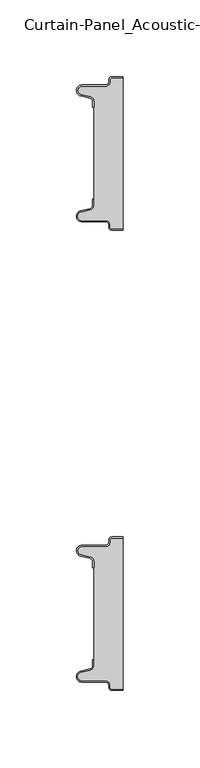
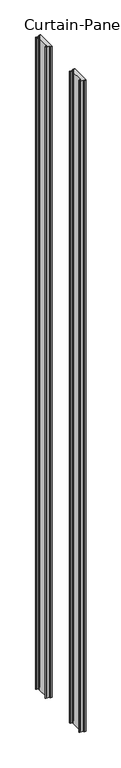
"""IFC4 building model written with IfcOpenShell, lengths in millimetres: plate geometry, Curtain-Panel_Acoustic-Double-Panel_Standard-profile-PMH : ACH_Acoustic-Double-Panel_PMH_100-200-100."""

from ifc_helpers import new_model, si_unit, point, frame_2d, origin, origin_with_axes, place, context, project, spatial, polyline, circle_curve, trimmed, segment, composite_curve, outline, extrude, source, transform, mapped, element, save


def curtain_panel_acoustic_double_panel_standard_profile_pmh_10210fed(model_context):
    return source(origin(), model_context, "Body", "SweptSolid", [
        extrude(outline(composite_curve([segment(trimmed(circle_curve(frame_2d((-12.0, -315.878557)), 2.0), [point((-10.0, -315.878557))], [point((-11.5500978, -313.9298169))], True, "CARTESIAN"), True, "CONTINUOUS"), segment(polyline([(-11.5500978, -313.9298169), (-17.7098239, -312.507732)]), True, "CONTINUOUS"), segment(trimmed(circle_curve(frame_2d((-16.9, -309.0)), 3.6), [point((-17.7098239, -312.507732))], [point((-16.9, -305.4))], False, "CARTESIAN"), True, "CONTINUOUS"), segment(polyline([(-16.9, -305.4), (-1.4, -305.4)]), True, "CONTINUOUS"), segment(trimmed(circle_curve(frame_2d((-1.4, -303.4)), 2.0), [point((-1.4, -305.4))], [point((0.6, -303.4))], True, "CARTESIAN"), True, "CONTINUOUS"), segment(polyline([(0.6, -303.4), (0.6, -302.0)]), True, "CONTINUOUS"), segment(trimmed(circle_curve(frame_2d((2.6, -302.0)), 2.0), [point((0.6, -302.0))], [point((2.6, -300.0))], False, "CARTESIAN"), True, "CONTINUOUS"), segment(polyline([(2.6, -300.0), (10.0, -300.0), (10.0, -300.8), (2.6, -300.8)]), True, "CONTINUOUS"), segment(trimmed(circle_curve(frame_2d((2.6, -302.0)), 1.2), [point((2.6, -300.8))], [point((1.4, -302.0))], True, "CARTESIAN"), True, "CONTINUOUS"), segment(polyline([(1.4, -302.0), (1.4, -303.4)]), True, "CONTINUOUS"), segment(trimmed(circle_curve(frame_2d((-1.4, -303.4)), 2.8), [point((1.4, -303.4))], [point((-1.4, -306.2))], False, "CARTESIAN"), True, "CONTINUOUS"), segment(polyline([(-1.4, -306.2), (-16.9, -306.2)]), True, "CONTINUOUS"), segment(trimmed(circle_curve(frame_2d((-16.9, -309.0)), 2.8), [point((-16.9, -306.2))], [point((-17.529863, -311.7282362))], True, "CARTESIAN"), True, "CONTINUOUS"), segment(polyline([(-17.529863, -311.7282362), (-11.370137, -313.150321)]), True, "CONTINUOUS"), segment(trimmed(circle_curve(frame_2d((-12.0, -315.878557)), 2.8), [point((-11.370137, -313.150321))], [point((-9.2, -315.878557))], False, "CARTESIAN"), True, "CONTINUOUS"), segment(polyline([(-9.2, -315.878557), (-9.2, -320.0), (-10.0, -320.0), (-10.0, -315.878557)]), True, "CONTINUOUS")], self_intersect=False)), origin_with_axes(), (0.0, 0.0, 1.0), 3500.0),
        extrude(outline(composite_curve([segment(polyline([(-9.2, -384.121443), (-9.2, -315.8785573)]), True, "CONTINUOUS"), segment(trimmed(circle_curve(frame_2d((-12.0, -315.8785573)), 2.8), [point((-9.2, -315.8785573))], [point((-11.370137, -313.1503212))], True, "CARTESIAN"), True, "CONTINUOUS"), segment(polyline([(-11.370137, -313.1503212), (-17.5298631, -311.7282362)]), True, "CONTINUOUS"), segment(trimmed(circle_curve(frame_2d((-16.9, -309.0)), 2.8), [point((-17.5298631, -311.7282362))], [point((-16.9, -306.2))], False, "CARTESIAN"), True, "CONTINUOUS"), segment(polyline([(-16.9, -306.2), (-1.4000001, -306.2)]), True, "CONTINUOUS"), segment(trimmed(circle_curve(frame_2d((-1.4000001, -303.4)), 2.8), [point((-1.4000001, -306.2))], [point((1.3999999, -303.4))], True, "CARTESIAN"), True, "CONTINUOUS"), segment(polyline([(1.3999999, -303.4), (1.3999999, -302.0)]), True, "CONTINUOUS"), segment(trimmed(circle_curve(frame_2d((2.5999999, -302.0)), 1.2), [point((1.3999999, -302.0))], [point((2.5999999, -300.8))], False, "CARTESIAN"), True, "CONTINUOUS"), segment(polyline([(2.5999999, -300.8), (10.0, -300.8), (10.0, -399.2), (2.6, -399.2)]), True, "CONTINUOUS"), segment(trimmed(circle_curve(frame_2d((2.6, -398.0)), 1.2), [point((2.6, -399.2))], [point((1.4, -398.0))], False, "CARTESIAN"), True, "CONTINUOUS"), segment(polyline([(1.4, -398.0), (1.4, -396.5999998)]), True, "CONTINUOUS"), segment(trimmed(circle_curve(frame_2d((-1.4, -396.5999998)), 2.8), [point((1.4, -396.5999998))], [point((-1.4, -393.7999998))], True, "CARTESIAN"), True, "CONTINUOUS"), segment(polyline([(-1.4, -393.7999998), (-16.9, -393.7999998)]), True, "CONTINUOUS"), segment(trimmed(circle_curve(frame_2d((-16.9, -391.0)), 2.7999998), [point((-16.9, -393.7999998))], [point((-17.529863, -388.271764))], False, "CARTESIAN"), True, "CONTINUOUS"), segment(polyline([(-17.529863, -388.271764), (-11.370137, -386.8496792)]), True, "CONTINUOUS"), segment(trimmed(circle_curve(frame_2d((-12.0, -384.121443)), 2.8), [point((-11.370137, -386.8496792))], [point((-9.2, -384.121443))], True, "CARTESIAN"), True, "CONTINUOUS")], self_intersect=False)), origin_with_axes(), (0.0, 0.0, 1.0), 3500.0),
        extrude(outline(composite_curve([segment(trimmed(circle_curve(frame_2d((2.6, -398.0)), 2.0), [point((2.6, -400.0))], [point((0.6, -398.0))], False, "CARTESIAN"), True, "CONTINUOUS"), segment(polyline([(0.6, -398.0), (0.6, -396.6)]), True, "CONTINUOUS"), segment(trimmed(circle_curve(frame_2d((-1.4, -396.6)), 2.0), [point((0.6, -396.6))], [point((-1.4, -394.6))], True, "CARTESIAN"), True, "CONTINUOUS"), segment(polyline([(-1.4, -394.6), (-16.9, -394.6)]), True, "CONTINUOUS"), segment(trimmed(circle_curve(frame_2d((-16.9, -391.0)), 3.6), [point((-16.9, -394.6))], [point((-17.7098239, -387.4922678))], False, "CARTESIAN"), True, "CONTINUOUS"), segment(polyline([(-17.7098239, -387.4922678), (-11.5500979, -386.070183)]), True, "CONTINUOUS"), segment(trimmed(circle_curve(frame_2d((-12.0, -384.121443)), 2.0), [point((-11.5500979, -386.070183))], [point((-10.0, -384.121443))], True, "CARTESIAN"), True, "CONTINUOUS"), segment(polyline([(-10.0, -384.121443), (-10.0, -380.0), (-9.2, -380.0), (-9.2, -384.121443)]), True, "CONTINUOUS"), segment(trimmed(circle_curve(frame_2d((-12.0, -384.121443)), 2.8), [point((-9.2, -384.121443))], [point((-11.370137, -386.8496792))], False, "CARTESIAN"), True, "CONTINUOUS"), segment(polyline([(-11.370137, -386.8496792), (-17.529863, -388.271764)]), True, "CONTINUOUS"), segment(trimmed(circle_curve(frame_2d((-16.9, -391.0)), 2.8), [point((-17.529863, -388.271764))], [point((-16.9, -393.8))], True, "CARTESIAN"), True, "CONTINUOUS"), segment(polyline([(-16.9, -393.8), (-1.4, -393.8)]), True, "CONTINUOUS"), segment(trimmed(circle_curve(frame_2d((-1.4, -396.6)), 2.8), [point((-1.4, -393.8))], [point((1.4, -396.6))], False, "CARTESIAN"), True, "CONTINUOUS"), segment(polyline([(1.4, -396.6), (1.4, -398.0)]), True, "CONTINUOUS"), segment(trimmed(circle_curve(frame_2d((2.6, -398.0)), 1.2), [point((1.4, -398.0))], [point((2.6, -399.2))], True, "CARTESIAN"), True, "CONTINUOUS"), segment(polyline([(2.6, -399.2), (10.0, -399.2), (10.0, -400.0), (2.6, -400.0)]), True, "CONTINUOUS")], self_intersect=False)), origin_with_axes(), (0.0, 0.0, 1.0), 3500.0),
        extrude(outline(composite_curve([segment(trimmed(circle_curve(frame_2d((-12.0, -15.878557)), 2.0), [point((-10.0, -15.878557))], [point((-11.5500978, -13.9298169))], True, "CARTESIAN"), True, "CONTINUOUS"), segment(polyline([(-11.5500978, -13.9298169), (-17.7098239, -12.507732)]), True, "CONTINUOUS"), segment(trimmed(circle_curve(frame_2d((-16.9, -9.0)), 3.6), [point((-17.7098239, -12.507732))], [point((-16.9, -5.4))], False, "CARTESIAN"), True, "CONTINUOUS"), segment(polyline([(-16.9, -5.4), (-1.4, -5.4)]), True, "CONTINUOUS"), segment(trimmed(circle_curve(frame_2d((-1.4, -3.4)), 2.0), [point((-1.4, -5.4))], [point((0.6, -3.4))], True, "CARTESIAN"), True, "CONTINUOUS"), segment(polyline([(0.6, -3.4), (0.6, -2.0)]), True, "CONTINUOUS"), segment(trimmed(circle_curve(frame_2d((2.6, -2.0)), 2.0), [point((0.6, -2.0))], [point((2.6, 0.0))], False, "CARTESIAN"), True, "CONTINUOUS"), segment(polyline([(2.6, 0.0), (10.0, 0.0), (10.0, -0.8), (2.6, -0.8)]), True, "CONTINUOUS"), segment(trimmed(circle_curve(frame_2d((2.6, -2.0)), 1.2), [point((2.6, -0.8))], [point((1.4, -2.0))], True, "CARTESIAN"), True, "CONTINUOUS"), segment(polyline([(1.4, -2.0), (1.4, -3.4)]), True, "CONTINUOUS"), segment(trimmed(circle_curve(frame_2d((-1.4, -3.4)), 2.8), [point((1.4, -3.4))], [point((-1.4, -6.2))], False, "CARTESIAN"), True, "CONTINUOUS"), segment(polyline([(-1.4, -6.2), (-16.9, -6.2)]), True, "CONTINUOUS"), segment(trimmed(circle_curve(frame_2d((-16.9, -9.0)), 2.8), [point((-16.9, -6.2))], [point((-17.529863, -11.7282362))], True, "CARTESIAN"), True, "CONTINUOUS"), segment(polyline([(-17.529863, -11.7282362), (-11.370137, -13.150321)]), True, "CONTINUOUS"), segment(trimmed(circle_curve(frame_2d((-12.0, -15.878557)), 2.8), [point((-11.370137, -13.150321))], [point((-9.2, -15.878557))], False, "CARTESIAN"), True, "CONTINUOUS"), segment(polyline([(-9.2, -15.878557), (-9.2, -20.0), (-10.0, -20.0), (-10.0, -15.878557)]), True, "CONTINUOUS")], self_intersect=False)), origin_with_axes(), (0.0, 0.0, 1.0), 3500.0),
        extrude(outline(composite_curve([segment(polyline([(-9.2, -84.121443), (-9.2, -15.8785573)]), True, "CONTINUOUS"), segment(trimmed(circle_curve(frame_2d((-12.0, -15.8785573)), 2.8), [point((-9.2, -15.8785573))], [point((-11.370137, -13.1503212))], True, "CARTESIAN"), True, "CONTINUOUS"), segment(polyline([(-11.370137, -13.1503212), (-17.5298631, -11.7282362)]), True, "CONTINUOUS"), segment(trimmed(circle_curve(frame_2d((-16.9, -9.0)), 2.8), [point((-17.5298631, -11.7282362))], [point((-16.9, -6.2))], False, "CARTESIAN"), True, "CONTINUOUS"), segment(polyline([(-16.9, -6.2), (-1.4000001, -6.2)]), True, "CONTINUOUS"), segment(trimmed(circle_curve(frame_2d((-1.4000001, -3.4)), 2.8), [point((-1.4000001, -6.2))], [point((1.3999999, -3.4))], True, "CARTESIAN"), True, "CONTINUOUS"), segment(polyline([(1.3999999, -3.4), (1.3999999, -2.0)]), True, "CONTINUOUS"), segment(trimmed(circle_curve(frame_2d((2.5999999, -2.0)), 1.2), [point((1.3999999, -2.0))], [point((2.5999999, -0.8))], False, "CARTESIAN"), True, "CONTINUOUS"), segment(polyline([(2.5999999, -0.8), (10.0, -0.8), (10.0, -99.2), (2.6, -99.2)]), True, "CONTINUOUS"), segment(trimmed(circle_curve(frame_2d((2.6, -98.0)), 1.2), [point((2.6, -99.2))], [point((1.4, -98.0))], False, "CARTESIAN"), True, "CONTINUOUS"), segment(polyline([(1.4, -98.0), (1.4, -96.5999998)]), True, "CONTINUOUS"), segment(trimmed(circle_curve(frame_2d((-1.4, -96.5999998)), 2.8), [point((1.4, -96.5999998))], [point((-1.4, -93.7999998))], True, "CARTESIAN"), True, "CONTINUOUS"), segment(polyline([(-1.4, -93.7999998), (-16.9, -93.7999998)]), True, "CONTINUOUS"), segment(trimmed(circle_curve(frame_2d((-16.9, -91.0)), 2.7999998), [point((-16.9, -93.7999998))], [point((-17.529863, -88.271764))], False, "CARTESIAN"), True, "CONTINUOUS"), segment(polyline([(-17.529863, -88.271764), (-11.370137, -86.8496792)]), True, "CONTINUOUS"), segment(trimmed(circle_curve(frame_2d((-12.0, -84.121443)), 2.8), [point((-11.370137, -86.8496792))], [point((-9.2, -84.121443))], True, "CARTESIAN"), True, "CONTINUOUS")], self_intersect=False)), origin_with_axes(), (0.0, 0.0, 1.0), 3500.0),
        extrude(outline(composite_curve([segment(trimmed(circle_curve(frame_2d((2.6, -98.0)), 2.0), [point((2.6, -100.0))], [point((0.6, -98.0))], False, "CARTESIAN"), True, "CONTINUOUS"), segment(polyline([(0.6, -98.0), (0.6, -96.6)]), True, "CONTINUOUS"), segment(trimmed(circle_curve(frame_2d((-1.4, -96.6)), 2.0), [point((0.6, -96.6))], [point((-1.4, -94.6))], True, "CARTESIAN"), True, "CONTINUOUS"), segment(polyline([(-1.4, -94.6), (-16.9, -94.6)]), True, "CONTINUOUS"), segment(trimmed(circle_curve(frame_2d((-16.9, -91.0)), 3.6), [point((-16.9, -94.6))], [point((-17.7098239, -87.4922678))], False, "CARTESIAN"), True, "CONTINUOUS"), segment(polyline([(-17.7098239, -87.4922678), (-11.5500979, -86.070183)]), True, "CONTINUOUS"), segment(trimmed(circle_curve(frame_2d((-12.0, -84.121443)), 2.0), [point((-11.5500979, -86.070183))], [point((-10.0, -84.121443))], True, "CARTESIAN"), True, "CONTINUOUS"), segment(polyline([(-10.0, -84.121443), (-10.0, -80.0), (-9.2, -80.0), (-9.2, -84.121443)]), True, "CONTINUOUS"), segment(trimmed(circle_curve(frame_2d((-12.0, -84.121443)), 2.8), [point((-9.2, -84.121443))], [point((-11.370137, -86.8496792))], False, "CARTESIAN"), True, "CONTINUOUS"), segment(polyline([(-11.370137, -86.8496792), (-17.529863, -88.271764)]), True, "CONTINUOUS"), segment(trimmed(circle_curve(frame_2d((-16.9, -91.0)), 2.8), [point((-17.529863, -88.271764))], [point((-16.9, -93.8))], True, "CARTESIAN"), True, "CONTINUOUS"), segment(polyline([(-16.9, -93.8), (-1.4, -93.8)]), True, "CONTINUOUS"), segment(trimmed(circle_curve(frame_2d((-1.4, -96.6)), 2.8), [point((-1.4, -93.8))], [point((1.4, -96.6))], False, "CARTESIAN"), True, "CONTINUOUS"), segment(polyline([(1.4, -96.6), (1.4, -98.0)]), True, "CONTINUOUS"), segment(trimmed(circle_curve(frame_2d((2.6, -98.0)), 1.2), [point((1.4, -98.0))], [point((2.6, -99.2))], True, "CARTESIAN"), True, "CONTINUOUS"), segment(polyline([(2.6, -99.2), (10.0, -99.2), (10.0, -100.0), (2.6, -100.0)]), True, "CONTINUOUS")], self_intersect=False)), origin_with_axes(), (0.0, 0.0, 1.0), 3500.0),
    ])


if __name__ == "__main__":
    model = new_model("IFC4")
    model_context = context("Model", 3, world=origin())
    ifc_project = project(units=[si_unit("LENGTHUNIT", "METRE", prefix="MILLI")], contexts=[model_context])
    site = spatial("IfcSite", under=ifc_project)
    building = spatial("IfcBuilding", under=site)
    placement = place(None, origin())
    curtain_panel_acoustic_double_panel_standard_profile_pmh_shape = curtain_panel_acoustic_double_panel_standard_profile_pmh_10210fed(model_context)
    element("IfcPlate", 1, ObjectType="Curtain-Panel_Acoustic-Double-Panel_Standard-profile-PMH : ACH_Acoustic-Double-Panel_PMH_100-200-100", at=placement, inside=building, context=model_context, shape_type="MappedRepresentation", body=[
        mapped(curtain_panel_acoustic_double_panel_standard_profile_pmh_shape, transform((0.0, 0.0, 0.0), x_axis=(1.0, 0.0, 0.0), y_axis=(0.0, 1.0, 0.0), z_axis=(0.0, 0.0, 1.0))),
    ])
    save(model, "model.ifc")
